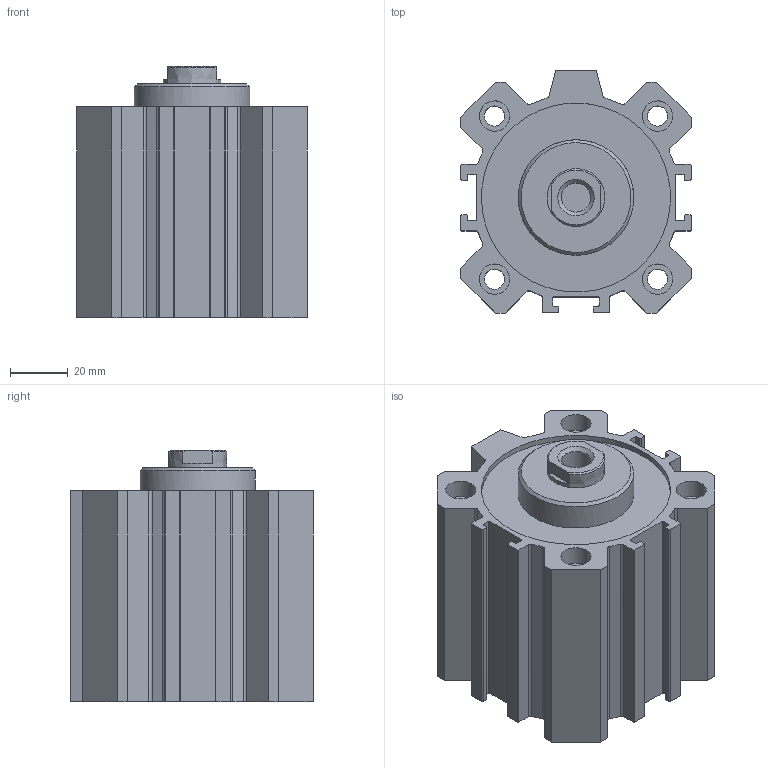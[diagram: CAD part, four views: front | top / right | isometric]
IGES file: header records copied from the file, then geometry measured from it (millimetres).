
Global section: file name: 1511_63_0030; native system: Autodesk Inventor 2014; preprocessor: unknown; author: A. Manieri; date: 20160824.140107; units: millimetre
Bounding box: 80 x 84 x 87 mm (x, y, z)
Volume: 294361.6 mm3; surface area: 79106.1 mm2
Topology: 2 solids, 2 shells, 165 faces, 443 edges, 300 vertices
Faces by surface type: bspline 165
